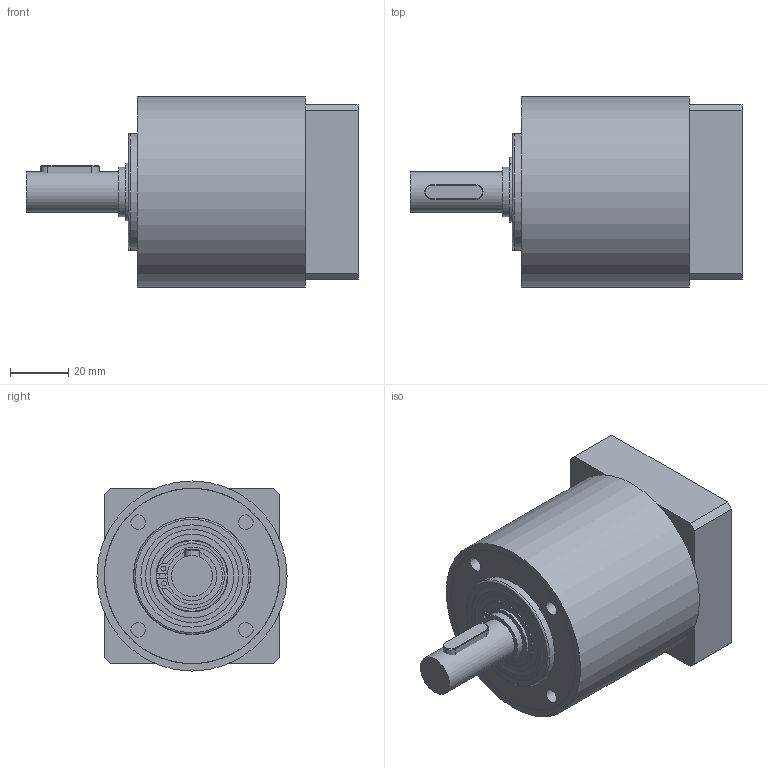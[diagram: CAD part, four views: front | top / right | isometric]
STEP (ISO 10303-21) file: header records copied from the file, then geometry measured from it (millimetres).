
FILE_DESCRIPTION(/* description */ (''),/* implementation_level */ '2;1');
FILE_NAME(/* name */ 'pnMP1651829377681_step214.stp',/* time_stamp */ '2022-05-06T11:29:56+02:00',/* author */ (''),/* organization */ (''),/* preprocessor_version */ 'ST-DEVELOPER v16.7',/* originating_system */ 'SIEMENS PLM Software NX 1884',/* authorisation */ '');
FILE_SCHEMA (('AUTOMOTIVE_DESIGN { 1 0 10303 214 0 1 1 1 }'));
Length unit declared in the file: millimetre
Products named in the file (1): pnMP1651829377681_M
Bounding box: 113.55 x 65 x 65 mm (x, y, z)
Volume: 246721.7 mm3; surface area: 63187.3 mm2
Topology: 14 solids, 14 shells, 184 faces, 367 edges, 232 vertices
Faces by surface type: plane 80, cylinder 67, cone 25, torus 12
Full cylindrical faces by diameter (mm): 1.7 x2, 4 x9, 5 x4, 7.22 x1, 7.5 x1, 9.75 x1, 10 x1, 12.5 x1, 14 x1, 15 x2, 16.2 x1, 17 x3, 22.2 x2, 23.5 x1, 24.5 x2, 32 x1, 32.9 x2, 35 x4, 35.5 x1, 38.1 x1, 40 x3, 50 x3, 60 x2, 65 x1
Entity records: 4505 total; most frequent: DIRECTION 802, CARTESIAN_POINT 794, ORIENTED_EDGE 552, AXIS2_PLACEMENT_3D 355, EDGE_LOOP 312, EDGE_CURVE 276, FACE_BOUND 239, VERTEX_POINT 219
